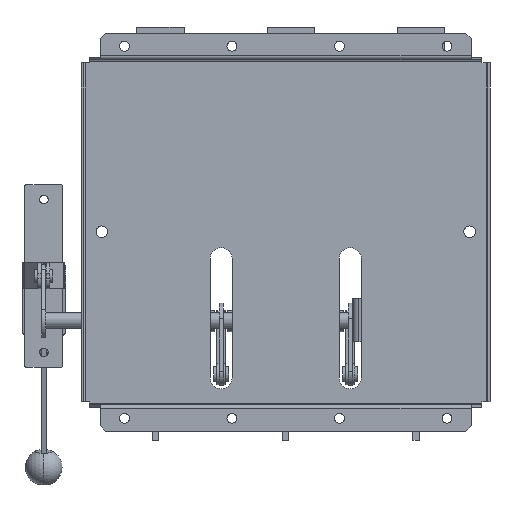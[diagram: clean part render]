
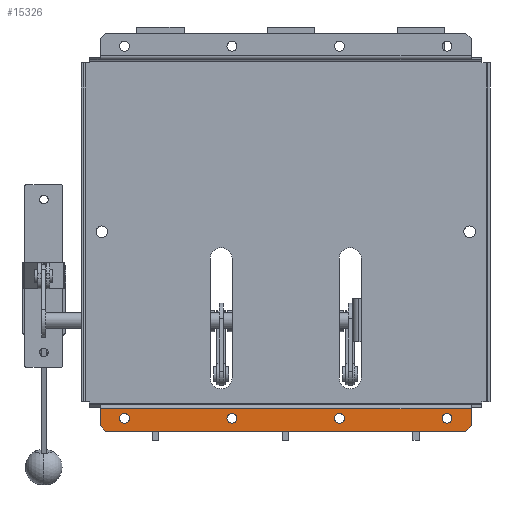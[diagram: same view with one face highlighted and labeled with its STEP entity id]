
A CAD part, front view. The second image highlights one B-rep face of the part: STEP entity #15326.
In plain terms, the highlighted planar face has unit normal (0, -1, 0).
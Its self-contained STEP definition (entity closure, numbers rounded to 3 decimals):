
#164 = DIRECTION ( 'NONE',  ( 1., 0., 0. ) ) ;
#253 = CIRCLE ( 'NONE', #36246, 4.6 ) ;
#2188 = ORIENTED_EDGE ( 'NONE', *, *, #33781, .T. ) ;
#2488 = CIRCLE ( 'NONE', #13466, 4.6 ) ;
#3222 = VECTOR ( 'NONE', #40809, 1000. ) ;
#3225 = CIRCLE ( 'NONE', #41972, 4.6 ) ;
#3466 = EDGE_CURVE ( 'NONE', #41646, #15231, #26687, .T. ) ;
#4041 = DIRECTION ( 'NONE',  ( 0., -1., 0. ) ) ;
#4040 = DIRECTION ( 'NONE',  ( 0., -1., 0. ) ) ;
#4540 = EDGE_CURVE ( 'NONE', #38797, #49316, #253, .T. ) ;
#4598 = CARTESIAN_POINT ( 'NONE',  ( 50., -22., -168.4 ) ) ;
#5024 = AXIS2_PLACEMENT_3D ( 'NONE', #37664, #4040, #11745 ) ;
#5425 = CARTESIAN_POINT ( 'NONE',  ( 172.5, -22., -180. ) ) ;
#6481 = ORIENTED_EDGE ( 'NONE', *, *, #19777, .T. ) ;
#6654 = DIRECTION ( 'NONE',  ( 0., -1., 0. ) ) ;
#8592 = EDGE_LOOP ( 'NONE', ( #32166, #15721 ) ) ;
#8971 = DIRECTION ( 'NONE',  ( 0., -1., 0. ) ) ;
#9039 = EDGE_LOOP ( 'NONE', ( #24080, #27155 ) ) ;
#9101 = EDGE_CURVE ( 'NONE', #48070, #35093, #27470, .T. ) ;
#9161 = CIRCLE ( 'NONE', #34355, 4.6 ) ;
#9207 = LINE ( 'NONE', #14080, #3222 ) ;
#9327 = VERTEX_POINT ( 'NONE', #33139 ) ;
#9524 = DIRECTION ( 'NONE',  ( 0., 0., 1. ) ) ;
#9901 = CIRCLE ( 'NONE', #5024, 4.6 ) ;
#10711 = ORIENTED_EDGE ( 'NONE', *, *, #19864, .F. ) ;
#10762 = FACE_BOUND ( 'NONE', #9039, .T. ) ;
#11391 = CARTESIAN_POINT ( 'NONE',  ( -150., -22., -173. ) ) ;
#11572 = DIRECTION ( 'NONE',  ( 0., 0., 1. ) ) ;
#11745 = DIRECTION ( 'NONE',  ( 0., 0., 1. ) ) ;
#12454 = CARTESIAN_POINT ( 'NONE',  ( -172.5, -22., -164. ) ) ;
#12667 = CARTESIAN_POINT ( 'NONE',  ( -150., -22., -168.4 ) ) ;
#12826 = DIRECTION ( 'NONE',  ( 0., 0., 1. ) ) ;
#13055 = LINE ( 'NONE', #22201, #19114 ) ;
#13466 = AXIS2_PLACEMENT_3D ( 'NONE', #19357, #34858, #38828 ) ;
#14080 = CARTESIAN_POINT ( 'NONE',  ( 0., -22., -185. ) ) ;
#14688 = ORIENTED_EDGE ( 'NONE', *, *, #19231, .F. ) ;
#14745 = VERTEX_POINT ( 'NONE', #17652 ) ;
#14790 = VERTEX_POINT ( 'NONE', #17988 ) ;
#14859 = EDGE_LOOP ( 'NONE', ( #40898, #40799 ) ) ;
#14886 = CARTESIAN_POINT ( 'NONE',  ( 172.5, -22., 0. ) ) ;
#15231 = VERTEX_POINT ( 'NONE', #25147 ) ;
#15326 = ADVANCED_FACE ( 'NONE', ( #17946, #25759, #35273, #10762, #29969 ), #40938, .F. ) ;
#15721 = ORIENTED_EDGE ( 'NONE', *, *, #4540, .F. ) ;
#16459 = CIRCLE ( 'NONE', #25238, 4.6 ) ;
#17652 = CARTESIAN_POINT ( 'NONE',  ( 150., -22., -177.6 ) ) ;
#17677 = VECTOR ( 'NONE', #22266, 1000. ) ;
#17946 = FACE_BOUND ( 'NONE', #14859, .T. ) ;
#17988 = CARTESIAN_POINT ( 'NONE',  ( -167.5, -22., -185. ) ) ;
#18378 = VERTEX_POINT ( 'NONE', #44489 ) ;
#19114 = VECTOR ( 'NONE', #44005, 1000. ) ;
#19231 = EDGE_CURVE ( 'NONE', #31330, #15231, #19701, .T. ) ;
#19340 = CARTESIAN_POINT ( 'NONE',  ( -172.5, -22., -180. ) ) ;
#19357 = CARTESIAN_POINT ( 'NONE',  ( 150., -22., -173. ) ) ;
#19701 = LINE ( 'NONE', #45954, #46559 ) ;
#19777 = EDGE_CURVE ( 'NONE', #18378, #41646, #24452, .T. ) ;
#19864 = EDGE_CURVE ( 'NONE', #34420, #14745, #25623, .T. ) ;
#20758 = EDGE_CURVE ( 'NONE', #35093, #48070, #9901, .T. ) ;
#22201 = CARTESIAN_POINT ( 'NONE',  ( -172.5, -22., 0. ) ) ;
#22266 = DIRECTION ( 'NONE',  ( 0., 0., 1. ) ) ;
#22572 = EDGE_CURVE ( 'NONE', #14790, #18378, #9207, .T. ) ;
#22836 = CARTESIAN_POINT ( 'NONE',  ( 150., -22., -173. ) ) ;
#23259 = EDGE_LOOP ( 'NONE', ( #2188, #38253, #39846, #6481, #26072, #14688 ) ) ;
#23990 = EDGE_CURVE ( 'NONE', #14745, #34420, #2488, .T. ) ;
#24080 = ORIENTED_EDGE ( 'NONE', *, *, #30414, .F. ) ;
#24327 = VERTEX_POINT ( 'NONE', #44164 ) ;
#24452 = LINE ( 'NONE', #5425, #35156 ) ;
#25147 = CARTESIAN_POINT ( 'NONE',  ( 172.5, -22., -164. ) ) ;
#25238 = AXIS2_PLACEMENT_3D ( 'NONE', #43448, #39777, #43624 ) ;
#25370 = CARTESIAN_POINT ( 'NONE',  ( 172.5, -22., -180. ) ) ;
#25623 = CIRCLE ( 'NONE', #34647, 4.6 ) ;
#25759 = FACE_BOUND ( 'NONE', #46367, .T. ) ;
#26072 = ORIENTED_EDGE ( 'NONE', *, *, #3466, .T. ) ;
#26687 = LINE ( 'NONE', #14886, #17677 ) ;
#26986 = CARTESIAN_POINT ( 'NONE',  ( 150., -22., -168.4 ) ) ;
#27155 = ORIENTED_EDGE ( 'NONE', *, *, #30632, .F. ) ;
#27218 = EDGE_CURVE ( 'NONE', #38889, #14790, #43512, .T. ) ;
#27460 = CARTESIAN_POINT ( 'NONE',  ( -50., -22., -173. ) ) ;
#27470 = CIRCLE ( 'NONE', #34945, 4.6 ) ;
#28045 = VECTOR ( 'NONE', #36037, 1000. ) ;
#29050 = EDGE_CURVE ( 'NONE', #49316, #38797, #16459, .T. ) ;
#29652 = DIRECTION ( 'NONE',  ( 0., 0., 1. ) ) ;
#29969 = FACE_OUTER_BOUND ( 'NONE', #23259, .T. ) ;
#30147 = DIRECTION ( 'NONE',  ( 0., 0., 1. ) ) ;
#30191 = DIRECTION ( 'NONE',  ( 0., 0., 1. ) ) ;
#30414 = EDGE_CURVE ( 'NONE', #9327, #24327, #3225, .T. ) ;
#30632 = EDGE_CURVE ( 'NONE', #24327, #9327, #9161, .T. ) ;
#31330 = VERTEX_POINT ( 'NONE', #12454 ) ;
#32070 = DIRECTION ( 'NONE',  ( 0.707, 0., 0.707 ) ) ;
#32166 = ORIENTED_EDGE ( 'NONE', *, *, #29050, .F. ) ;
#33139 = CARTESIAN_POINT ( 'NONE',  ( -50., -22., -168.4 ) ) ;
#33781 = EDGE_CURVE ( 'NONE', #31330, #38889, #13055, .T. ) ;
#33908 = CARTESIAN_POINT ( 'NONE',  ( 50., -22., -177.6 ) ) ;
#34054 = CARTESIAN_POINT ( 'NONE',  ( -150., -22., -177.6 ) ) ;
#34355 = AXIS2_PLACEMENT_3D ( 'NONE', #27460, #8971, #12826 ) ;
#34420 = VERTEX_POINT ( 'NONE', #26986 ) ;
#34647 = AXIS2_PLACEMENT_3D ( 'NONE', #22836, #4041, #11572 ) ;
#34858 = DIRECTION ( 'NONE',  ( 0., -1., 0. ) ) ;
#34945 = AXIS2_PLACEMENT_3D ( 'NONE', #47167, #39611, #9524 ) ;
#35093 = VERTEX_POINT ( 'NONE', #4598 ) ;
#35156 = VECTOR ( 'NONE', #32070, 1000. ) ;
#35273 = FACE_BOUND ( 'NONE', #8592, .T. ) ;
#36037 = DIRECTION ( 'NONE',  ( 0.707, 0., -0.707 ) ) ;
#36246 = AXIS2_PLACEMENT_3D ( 'NONE', #11391, #37470, #30191 ) ;
#37470 = DIRECTION ( 'NONE',  ( 0., -1., 0. ) ) ;
#37664 = CARTESIAN_POINT ( 'NONE',  ( 50., -22., -173. ) ) ;
#37749 = CARTESIAN_POINT ( 'NONE',  ( 0., -22., 0. ) ) ;
#38253 = ORIENTED_EDGE ( 'NONE', *, *, #27218, .T. ) ;
#38797 = VERTEX_POINT ( 'NONE', #34054 ) ;
#38828 = DIRECTION ( 'NONE',  ( 0., 0., 1. ) ) ;
#38889 = VERTEX_POINT ( 'NONE', #19340 ) ;
#39611 = DIRECTION ( 'NONE',  ( 0., -1., 0. ) ) ;
#39777 = DIRECTION ( 'NONE',  ( 0., -1., 0. ) ) ;
#39846 = ORIENTED_EDGE ( 'NONE', *, *, #22572, .T. ) ;
#40799 = ORIENTED_EDGE ( 'NONE', *, *, #9101, .F. ) ;
#40809 = DIRECTION ( 'NONE',  ( 1., 0., 0. ) ) ;
#40898 = ORIENTED_EDGE ( 'NONE', *, *, #20758, .F. ) ;
#40938 = PLANE ( 'NONE',  #49183 ) ;
#41452 = CARTESIAN_POINT ( 'NONE',  ( -50., -22., -173. ) ) ;
#41646 = VERTEX_POINT ( 'NONE', #25370 ) ;
#41972 = AXIS2_PLACEMENT_3D ( 'NONE', #41452, #6654, #30147 ) ;
#43398 = CARTESIAN_POINT ( 'NONE',  ( -167.5, -22., -185. ) ) ;
#43448 = CARTESIAN_POINT ( 'NONE',  ( -150., -22., -173. ) ) ;
#43512 = LINE ( 'NONE', #43398, #28045 ) ;
#43624 = DIRECTION ( 'NONE',  ( 0., 0., 1. ) ) ;
#44005 = DIRECTION ( 'NONE',  ( 0., 0., -1. ) ) ;
#44164 = CARTESIAN_POINT ( 'NONE',  ( -50., -22., -177.6 ) ) ;
#44489 = CARTESIAN_POINT ( 'NONE',  ( 167.5, -22., -185. ) ) ;
#45122 = DIRECTION ( 'NONE',  ( 0., 1., 0. ) ) ;
#45954 = CARTESIAN_POINT ( 'NONE',  ( 172.5, -22., -164. ) ) ;
#46367 = EDGE_LOOP ( 'NONE', ( #10711, #46430 ) ) ;
#46430 = ORIENTED_EDGE ( 'NONE', *, *, #23990, .F. ) ;
#46559 = VECTOR ( 'NONE', #164, 1000. ) ;
#47167 = CARTESIAN_POINT ( 'NONE',  ( 50., -22., -173. ) ) ;
#48070 = VERTEX_POINT ( 'NONE', #33908 ) ;
#49183 = AXIS2_PLACEMENT_3D ( 'NONE', #37749, #45122, #29652 ) ;
#49316 = VERTEX_POINT ( 'NONE', #12667 ) ;
